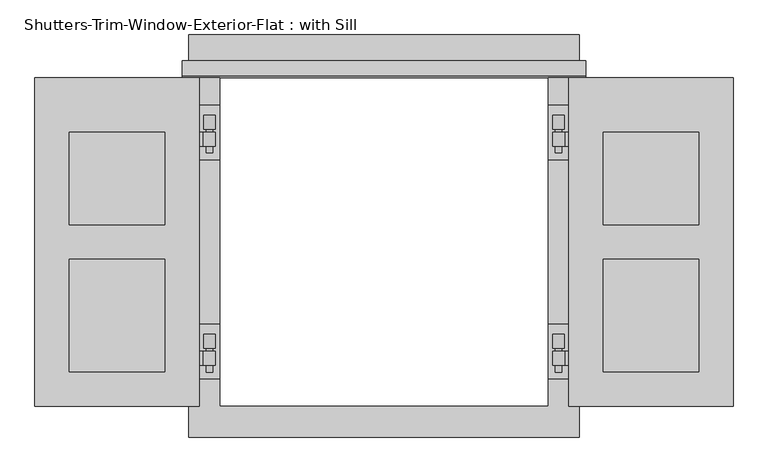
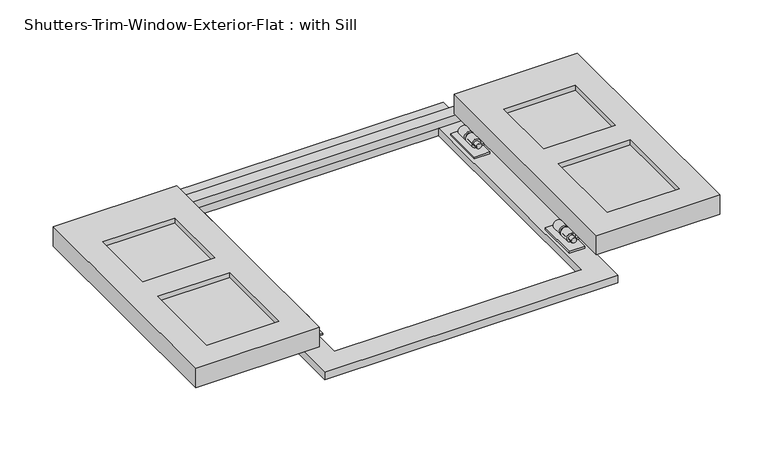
"""IFC4 building model written with IfcOpenShell, lengths in millimetres: proxy geometry, Shutters-Trim-Window-Exterior-Flat : with Sill."""

from ifc_helpers import new_model, si_unit, frame, origin, origin_with_axes, place, context, project, spatial, polyline, circle_curve, outline, extrude, source, transform, mapped, element, save
from ifc_brep_helpers import plane_surface, cylinder_surface, revolved_surface, advanced_brep


def shutters_trim_window_exterior_flat_with_sill_b35a88a1(model_context):
    return source(origin(), model_context, "Body", "SolidModel", [
        extrude(outline(polyline([(-647.7, 0.0), (-647.7, 609.6), (-342.9, 609.6), (-342.9, 0.0), (-647.7, 0.0)]), holes=[polyline([(-584.2, 63.5), (-406.4, 63.5), (-406.4, 273.05), (-584.2, 273.05), (-584.2, 63.5)]), polyline([(-406.4, 336.55), (-406.4, 508.0), (-584.2, 508.0), (-584.2, 336.55), (-406.4, 336.55)])]), frame((0.0, 0.0, 44.45), z_axis=(0.0, 0.0, 1.0), x_axis=(1.0, 0.0, 0.0)), (0.0, 0.0, 1.0), 50.8),
        extrude(outline(polyline([(-584.2, 63.5), (-584.2, 273.05), (-406.4, 273.05), (-406.4, 63.5), (-584.2, 63.5)])), frame((0.0, 0.0, 57.15), z_axis=(0.0, 0.0, 1.0), x_axis=(1.0, 0.0, 0.0)), (0.0, 0.0, 1.0), 25.4),
        extrude(outline(polyline([(-406.4, 336.55), (-584.2, 336.55), (-584.2, 508.0), (-406.4, 508.0), (-406.4, 336.55)])), frame((0.0, 0.0, 57.15), z_axis=(0.0, 0.0, 1.0), x_axis=(1.0, 0.0, 0.0)), (0.0, 0.0, 1.0), 25.4),
        extrude(outline(polyline([(647.7, 0.0), (342.9, 0.0), (342.9, 609.6), (647.7, 609.6), (647.7, 0.0)]), holes=[polyline([(584.2, 63.5), (584.2, 273.05), (406.4, 273.05), (406.4, 63.5), (584.2, 63.5)]), polyline([(406.4, 336.55), (584.2, 336.55), (584.2, 508.0), (406.4, 508.0), (406.4, 336.55)])]), frame((0.0, 0.0, 44.45), z_axis=(0.0, 0.0, 1.0), x_axis=(1.0, 0.0, 0.0)), (0.0, 0.0, 1.0), 50.8),
        extrude(outline(polyline([(584.2, 63.5), (406.4, 63.5), (406.4, 273.05), (584.2, 273.05), (584.2, 63.5)])), frame((0.0, 0.0, 57.15), z_axis=(0.0, 0.0, 1.0), x_axis=(1.0, 0.0, 0.0)), (0.0, 0.0, 1.0), 25.4),
        extrude(outline(polyline([(406.4, 336.55), (406.4, 508.0), (584.2, 508.0), (584.2, 336.55), (406.4, 336.55)])), frame((0.0, 0.0, 57.15), z_axis=(0.0, 0.0, 1.0), x_axis=(1.0, 0.0, 0.0)), (0.0, 0.0, 1.0), 25.4),
        extrude(outline(polyline([(-342.9, 457.2), (-342.9, 558.8), (-304.8, 558.8), (-304.8, 457.2), (-342.9, 457.2)])), frame((0.0, 0.0, 31.75), z_axis=(0.0, 0.0, 1.0), x_axis=(1.0, 0.0, 0.0)), (0.0, 0.0, 1.0), 4.7625),
        advanced_brep(
        [(-388.9375, 469.9, 44.45), (-388.9375, 469.9, 39.6875), (-363.474, 469.9, 39.6875), (-363.474, 469.9, 44.45), (-388.9375, 520.7, 39.6875), (-388.9375, 520.7, 44.45), (-363.474, 520.7, 44.45), (-363.474, 520.7, 39.6875), (-363.474, 508.0, 39.6875), (-323.85, 508.0, 39.6875), (-323.85, 482.6, 39.6875), (-363.474, 482.6, 39.6875), (-363.474, 482.6, 44.45), (-323.85, 482.6, 44.45), (-323.85, 508.0, 44.45), (-363.474, 508.0, 44.45), (-330.2, 508.0, 50.8), (-330.2, 482.6, 50.8), (-330.2, 508.0, 46.0375), (-330.2, 482.6, 46.0375), (-334.9625, 508.0, 46.0375), (-334.9625, 482.6, 46.0375), (-334.9625, 508.0, 50.8), (-334.9625, 482.6, 50.8)],
        [
            (0, 1),
            (1, 2),
            (2, 3),
            (3, 0),
            (4, 5),
            (5, 6),
            (6, 7),
            (7, 4),
            (1, 4),
            (7, 8),
            (8, 9),
            (9, 10),
            (10, 11),
            (11, 2),
            (0, 5),
            (3, 12),
            (12, 13),
            (13, 14),
            (14, 15),
            (15, 6),
            (16, 14, circle_curve(frame((-323.85, 508.0, 50.8), z_axis=(0.0, 1.0, 0.0), x_axis=(1.0, 0.0, 0.0)), 6.35)),
            (13, 17, circle_curve(frame((-323.85, 482.6, 50.8), z_axis=(0.0, -1.0, 0.0), x_axis=(1.0, 0.0, 0.0)), 6.35)),
            (17, 16),
            (18, 16),
            (17, 19),
            (19, 18),
            (20, 18),
            (19, 21),
            (21, 20),
            (22, 20),
            (21, 23),
            (23, 22),
            (9, 22, circle_curve(frame((-323.85, 508.0, 50.8), z_axis=(0.0, -1.0, 0.0), x_axis=(1.0, 0.0, 0.0)), 11.1125)),
            (23, 10, circle_curve(frame((-323.85, 482.6, 50.8), z_axis=(0.0, 1.0, 0.0), x_axis=(1.0, 0.0, 0.0)), 11.1125)),
            (8, 15),
            (12, 11),
        ],
        [
            plane_surface(frame((-323.85, 469.9, 50.8), z_axis=(0.0, -1.0, 0.0), x_axis=(0.0, 0.0, 1.0))),
            plane_surface(frame((-323.85, 520.7, 50.8), z_axis=(0.0, 1.0, 0.0), x_axis=(0.0, 0.0, 1.0))),
            plane_surface(frame((-388.9375, 469.9, 39.6875), z_axis=(0.0, 0.0, -1.0), x_axis=(0.0, 1.0, 0.0))),
            plane_surface(frame((-388.9375, 469.9, 44.45), z_axis=(-1.0, 0.0, 0.0), x_axis=(0.0, 1.0, 0.0))),
            plane_surface(frame((-323.85, 469.9, 44.45), z_axis=(0.0, 0.0, 1.0), x_axis=(0.0, 1.0, 0.0))),
            revolved_surface(polyline([(-317.5, 508.0, 50.8), (-317.5, 482.6, 50.8)]), (-323.85, 469.9, 50.8), (0.0, 1.0, 0.0)),
            plane_surface(frame((-330.2, 469.9, 46.0375), z_axis=(1.0, 0.0, 0.0), x_axis=(0.0, 1.0, 0.0))),
            plane_surface(frame((-334.9625, 469.9, 46.0375), z_axis=(0.0, 0.0, -1.0), x_axis=(0.0, 1.0, 0.0))),
            plane_surface(frame((-334.9625, 469.9, 50.8), z_axis=(-1.0, 0.0, 0.0), x_axis=(0.0, 1.0, 0.0))),
            cylinder_surface(frame((-323.85, 469.9, 50.8), z_axis=(0.0, -1.0, 0.0), x_axis=(1.0, 0.0, 0.0)), 11.1125),
            plane_surface(frame((-323.85, 508.0, 50.8), z_axis=(0.0, 1.0, 0.0), x_axis=(0.0, 0.0, 1.0))),
            plane_surface(frame((-363.474, 508.0, 44.45), z_axis=(1.0, 0.0, 0.0), x_axis=(0.0, 1.0, 0.0))),
            plane_surface(frame((-323.85, 482.6, 50.8), z_axis=(0.0, -1.0, 0.0), x_axis=(0.0, 0.0, 1.0))),
            plane_surface(frame((-363.474, 469.9, 44.45), z_axis=(1.0, 0.0, 0.0), x_axis=(0.0, 1.0, 0.0))),
        ],
        [
            (0, [[1, 2, 3, 4]]),
            (1, [[5, 6, 7, 8]]),
            (2, [[9, -8, 10, 11, 12, 13, 14, -2]]),
            (3, [[-1, 15, -5, -9]]),
            (4, [[-15, -4, 16, 17, 18, 19, 20, -6]]),
            (5, [[21, -18, 22, 23]]),
            (6, [[24, -23, 25, 26]]),
            (7, [[27, -26, 28, 29]]),
            (8, [[30, -29, 31, 32]]),
            (9, [[33, -32, 34, -12]]),
            (10, [[35, -19, -21, -24, -27, -30, -33, -11]]),
            (11, [[-35, -10, -7, -20]]),
            (12, [[36, -13, -34, -31, -28, -25, -22, -17]]),
            (13, [[-36, -16, -3, -14]]),
        ],
    ),
        advanced_brep(
        [(-326.23125, 514.35, 36.5125), (-321.46875, 514.35, 36.5125), (-321.46875, 514.35, 39.945632), (-326.23125, 514.35, 39.945632), (-317.5, 514.35, 50.8), (-330.2, 514.35, 50.8), (-326.23125, 539.75, 36.5125), (-326.23125, 539.75, 39.945632), (-321.46875, 539.75, 39.945632), (-321.46875, 539.75, 36.5125), (-330.2, 469.9, 50.8), (-317.5, 469.9, 50.8)],
        [
            (0, 1),
            (1, 2),
            (2, 3, circle_curve(frame((-323.85, 514.35, 50.8), z_axis=(0.0, -1.0, 0.0), x_axis=(1.0, 0.0, 0.0)), 11.1125)),
            (3, 0),
            (4, 5, circle_curve(frame((-323.85, 514.35, 50.8), z_axis=(0.0, 1.0, 0.0), x_axis=(1.0, 0.0, 0.0)), 6.35)),
            (5, 4, circle_curve(frame((-323.85, 514.35, 50.8), z_axis=(0.0, 1.0, 0.0), x_axis=(1.0, 0.0, 0.0)), 6.35)),
            (6, 7),
            (7, 8, circle_curve(frame((-323.85, 539.75, 50.8), z_axis=(0.0, 1.0, 0.0), x_axis=(1.0, 0.0, 0.0)), 11.1125)),
            (8, 9),
            (9, 6),
            (3, 7),
            (6, 0),
            (9, 1),
            (8, 2),
            (10, 11, circle_curve(frame((-323.85, 469.9, 50.8), z_axis=(0.0, -1.0, 0.0), x_axis=(1.0, 0.0, 0.0)), 6.35)),
            (11, 10, circle_curve(frame((-323.85, 469.9, 50.8), z_axis=(0.0, -1.0, 0.0), x_axis=(1.0, 0.0, 0.0)), 6.35)),
            (10, 5),
            (4, 11),
        ],
        [
            plane_surface(frame((-321.46875, 514.35, 36.5125), z_axis=(0.0, -1.0, 0.0), x_axis=(1.0, 0.0, 6.2395484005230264e-12))),
            plane_surface(frame((-321.46875, 539.75, 36.5125), z_axis=(0.0, 1.0, 0.0), x_axis=(-1.0, 0.0, -6.2395484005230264e-12))),
            plane_surface(frame((-326.23125, 514.35, 39.945632), z_axis=(-1.0, 0.0, 0.0), x_axis=(0.0, 1.0, 0.0))),
            plane_surface(frame((-326.23125, 514.35, 36.5125), z_axis=(6.2395484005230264e-12, 0.0, -1.0), x_axis=(0.0, 1.0, 0.0))),
            plane_surface(frame((-321.46875, 514.35, 36.5125), z_axis=(1.0, 0.0, 0.0), x_axis=(0.0, 1.0, 0.0))),
            cylinder_surface(frame((-323.85, 539.75, 50.8), z_axis=(0.0, -1.0, 0.0), x_axis=(1.0, 0.0, 0.0)), 11.1125),
            plane_surface(frame((-317.5, 469.9, 50.8), z_axis=(0.0, -1.0, 0.0), x_axis=(0.0, 0.0, 1.0))),
            cylinder_surface(frame((-323.85, 539.75, 50.8), z_axis=(0.0, -1.0, 0.0), x_axis=(1.0, 0.0, 0.0)), 6.35),
        ],
        [
            (0, [[1, 2, 3, 4], [5, 6]]),
            (1, [[7, 8, 9, 10]]),
            (2, [[-4, 11, -7, 12]]),
            (3, [[-1, -12, -10, 13]]),
            (4, [[-2, -13, -9, 14]]),
            (5, [[-3, -14, -8, -11]]),
            (6, [[15, 16]]),
            (7, [[-15, 17, -5, 18]]),
            (7, [[-16, -18, -6, -17]]),
        ],
    ),
        extrude(outline(polyline([(342.9, 457.2), (304.8, 457.2), (304.8, 558.8), (342.9, 558.8), (342.9, 457.2)])), frame((0.0, 0.0, 31.75), z_axis=(0.0, 0.0, 1.0), x_axis=(1.0, 0.0, 0.0)), (0.0, 0.0, 1.0), 4.7625),
        advanced_brep(
        [(388.9375, 469.9, 44.45), (363.474, 469.9, 44.45), (363.474, 469.9, 39.6875), (388.9375, 469.9, 39.6875), (388.9375, 520.7, 39.6875), (363.474, 520.7, 39.6875), (363.474, 520.7, 44.45), (388.9375, 520.7, 44.45), (363.474, 482.6, 39.6875), (323.85, 482.6, 39.6875), (323.85, 508.0, 39.6875), (363.474, 508.0, 39.6875), (363.474, 508.0, 44.45), (323.85, 508.0, 44.45), (323.85, 482.6, 44.45), (363.474, 482.6, 44.45), (330.2, 508.0, 50.8), (330.2, 482.6, 50.8), (330.2, 508.0, 46.0375), (330.2, 482.6, 46.0375), (334.9625, 508.0, 46.0375), (334.9625, 482.6, 46.0375), (334.9625, 508.0, 50.8), (334.9625, 482.6, 50.8)],
        [
            (0, 1),
            (1, 2),
            (2, 3),
            (3, 0),
            (4, 5),
            (5, 6),
            (6, 7),
            (7, 4),
            (2, 8),
            (8, 9),
            (9, 10),
            (10, 11),
            (11, 5),
            (4, 3),
            (7, 0),
            (6, 12),
            (12, 13),
            (13, 14),
            (14, 15),
            (15, 1),
            (16, 17),
            (17, 14, circle_curve(frame((323.85, 482.6, 50.8), z_axis=(0.0, -1.0, 0.0), x_axis=(-1.0, 0.0, 0.0)), 6.35)),
            (13, 16, circle_curve(frame((323.85, 508.0, 50.8), z_axis=(0.0, 1.0, 0.0), x_axis=(-1.0, 0.0, 0.0)), 6.35)),
            (18, 19),
            (19, 17),
            (16, 18),
            (20, 21),
            (21, 19),
            (18, 20),
            (22, 23),
            (23, 21),
            (20, 22),
            (9, 23, circle_curve(frame((323.85, 482.6, 50.8), z_axis=(0.0, 1.0, 0.0), x_axis=(-1.0, 0.0, 0.0)), 11.1125)),
            (22, 10, circle_curve(frame((323.85, 508.0, 50.8), z_axis=(0.0, -1.0, 0.0), x_axis=(-1.0, 0.0, 0.0)), 11.1125)),
            (12, 11),
            (8, 15),
        ],
        [
            plane_surface(frame((323.85, 469.9, 50.8), z_axis=(0.0, -1.0, 0.0), x_axis=(0.0, 0.0, 1.0))),
            plane_surface(frame((323.85, 520.7, 50.8), z_axis=(0.0, 1.0, 0.0), x_axis=(0.0, 0.0, 1.0))),
            plane_surface(frame((388.9375, 469.9, 39.6875), z_axis=(0.0, 0.0, -1.0), x_axis=(0.0, 1.0, 0.0))),
            plane_surface(frame((388.9375, 469.9, 44.45), z_axis=(1.0, 0.0, 0.0), x_axis=(0.0, 1.0, 0.0))),
            plane_surface(frame((323.85, 469.9, 44.45), z_axis=(0.0, 0.0, 1.0), x_axis=(0.0, 1.0, 0.0))),
            revolved_surface(polyline([(317.5, 508.0, 50.8), (317.5, 482.6, 50.8)]), (323.85, 469.9, 50.8), (0.0, 1.0, 0.0)),
            plane_surface(frame((330.2, 469.9, 46.0375), z_axis=(-1.0, 0.0, 0.0), x_axis=(0.0, 1.0, 0.0))),
            plane_surface(frame((334.9625, 469.9, 46.0375), z_axis=(0.0, 0.0, -1.0), x_axis=(0.0, 1.0, 0.0))),
            plane_surface(frame((334.9625, 469.9, 50.8), z_axis=(1.0, 0.0, 0.0), x_axis=(0.0, 1.0, 0.0))),
            cylinder_surface(frame((323.85, 469.9, 50.8), z_axis=(0.0, -1.0, 0.0), x_axis=(-1.0, 0.0, 0.0)), 11.1125),
            plane_surface(frame((323.85, 508.0, 50.8), z_axis=(0.0, 1.0, 0.0), x_axis=(0.0, 0.0, 1.0))),
            plane_surface(frame((363.474, 508.0, 44.45), z_axis=(-1.0, 0.0, 0.0), x_axis=(0.0, 1.0, 0.0))),
            plane_surface(frame((323.85, 482.6, 50.8), z_axis=(0.0, -1.0, 0.0), x_axis=(0.0, 0.0, 1.0))),
            plane_surface(frame((363.474, 469.9, 44.45), z_axis=(-1.0, 0.0, 0.0), x_axis=(0.0, 1.0, 0.0))),
        ],
        [
            (0, [[1, 2, 3, 4]]),
            (1, [[5, 6, 7, 8]]),
            (2, [[-3, 9, 10, 11, 12, 13, -5, 14]]),
            (3, [[-14, -8, 15, -4]]),
            (4, [[-7, 16, 17, 18, 19, 20, -1, -15]]),
            (5, [[21, 22, -18, 23]]),
            (6, [[24, 25, -21, 26]]),
            (7, [[27, 28, -24, 29]]),
            (8, [[30, 31, -27, 32]]),
            (9, [[-11, 33, -30, 34]]),
            (10, [[-12, -34, -32, -29, -26, -23, -17, 35]]),
            (11, [[-16, -6, -13, -35]]),
            (12, [[-19, -22, -25, -28, -31, -33, -10, 36]]),
            (13, [[-9, -2, -20, -36]]),
        ],
    ),
        advanced_brep(
        [(326.23125, 514.35, 36.5125), (326.23125, 514.35, 39.945632), (321.46875, 514.35, 39.945632), (321.46875, 514.35, 36.5125), (317.5, 514.35, 50.8), (330.2, 514.35, 50.8), (326.23125, 539.75, 36.5125), (321.46875, 539.75, 36.5125), (321.46875, 539.75, 39.945632), (326.23125, 539.75, 39.945632), (330.2, 469.9, 50.8), (317.5, 469.9, 50.8)],
        [
            (0, 1),
            (1, 2, circle_curve(frame((323.85, 514.35, 50.8), z_axis=(0.0, -1.0, 0.0), x_axis=(-1.0, 0.0, 0.0)), 11.1125)),
            (2, 3),
            (3, 0),
            (4, 5, circle_curve(frame((323.85, 514.35, 50.8), z_axis=(0.0, 1.0, 0.0), x_axis=(-1.0, 0.0, 0.0)), 6.35)),
            (5, 4, circle_curve(frame((323.85, 514.35, 50.8), z_axis=(0.0, 1.0, 0.0), x_axis=(-1.0, 0.0, 0.0)), 6.35)),
            (6, 7),
            (7, 8),
            (8, 9, circle_curve(frame((323.85, 539.75, 50.8), z_axis=(0.0, 1.0, 0.0), x_axis=(-1.0, 0.0, 0.0)), 11.1125)),
            (9, 6),
            (0, 6),
            (9, 1),
            (3, 7),
            (2, 8),
            (10, 11, circle_curve(frame((323.85, 469.9, 50.8), z_axis=(0.0, -1.0, 0.0), x_axis=(-1.0, 0.0, 0.0)), 6.35)),
            (11, 10, circle_curve(frame((323.85, 469.9, 50.8), z_axis=(0.0, -1.0, 0.0), x_axis=(-1.0, 0.0, 0.0)), 6.35)),
            (11, 4),
            (5, 10),
        ],
        [
            plane_surface(frame((321.46875, 514.35, 36.5125), z_axis=(0.0, -1.0, 0.0), x_axis=(-1.0, 0.0, 6.24601973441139e-12))),
            plane_surface(frame((321.46875, 539.75, 36.5125), z_axis=(0.0, 1.0, 0.0), x_axis=(1.0, 0.0, -6.24601973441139e-12))),
            plane_surface(frame((326.23125, 514.35, 39.945632), z_axis=(1.0, 0.0, 0.0), x_axis=(0.0, 1.0, 0.0))),
            plane_surface(frame((326.23125, 514.35, 36.5125), z_axis=(-6.24601973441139e-12, 0.0, -1.0), x_axis=(0.0, 1.0, 0.0))),
            plane_surface(frame((321.46875, 514.35, 36.5125), z_axis=(-1.0, 0.0, 0.0), x_axis=(0.0, 1.0, 0.0))),
            cylinder_surface(frame((323.85, 539.75, 50.8), z_axis=(0.0, -1.0, 0.0), x_axis=(-1.0, 0.0, 0.0)), 11.1125),
            plane_surface(frame((317.5, 469.9, 50.8), z_axis=(0.0, -1.0, 0.0), x_axis=(0.0, 0.0, 1.0))),
            cylinder_surface(frame((323.85, 539.75, 50.8), z_axis=(0.0, -1.0, 0.0), x_axis=(-1.0, 0.0, 0.0)), 6.35),
        ],
        [
            (0, [[1, 2, 3, 4], [5, 6]]),
            (1, [[7, 8, 9, 10]]),
            (2, [[11, -10, 12, -1]]),
            (3, [[13, -7, -11, -4]]),
            (4, [[14, -8, -13, -3]]),
            (5, [[-12, -9, -14, -2]]),
            (6, [[15, 16]]),
            (7, [[17, -6, 18, -16]]),
            (7, [[-18, -5, -17, -15]]),
        ],
    ),
        extrude(outline(polyline([(342.9, 50.8), (304.8, 50.8), (304.8, 152.4), (342.9, 152.4), (342.9, 50.8)])), frame((0.0, 0.0, 31.75), z_axis=(0.0, 0.0, 1.0), x_axis=(1.0, 0.0, 0.0)), (0.0, 0.0, 1.0), 4.7625),
        advanced_brep(
        [(388.9375, 63.5, 44.45), (363.474, 63.5, 44.45), (363.474, 63.5, 39.6875), (388.9375, 63.5, 39.6875), (388.9375, 114.3, 39.6875), (363.474, 114.3, 39.6875), (363.474, 114.3, 44.45), (388.9375, 114.3, 44.45), (363.474, 76.2, 39.6875), (323.85, 76.2, 39.6875), (323.85, 101.6, 39.6875), (363.474, 101.6, 39.6875), (363.474, 101.6, 44.45), (323.85, 101.6, 44.45), (323.85, 76.2, 44.45), (363.474, 76.2, 44.45), (330.2, 101.6, 50.8), (330.2, 76.2, 50.8), (330.2, 101.6, 46.0375), (330.2, 76.2, 46.0375), (334.9625, 101.6, 46.0375), (334.9625, 76.2, 46.0375), (334.9625, 101.6, 50.8), (334.9625, 76.2, 50.8)],
        [
            (0, 1),
            (1, 2),
            (2, 3),
            (3, 0),
            (4, 5),
            (5, 6),
            (6, 7),
            (7, 4),
            (2, 8),
            (8, 9),
            (9, 10),
            (10, 11),
            (11, 5),
            (4, 3),
            (7, 0),
            (6, 12),
            (12, 13),
            (13, 14),
            (14, 15),
            (15, 1),
            (16, 17),
            (17, 14, circle_curve(frame((323.85, 76.2, 50.8), z_axis=(0.0, -1.0, 0.0), x_axis=(-1.0, 0.0, 0.0)), 6.35)),
            (13, 16, circle_curve(frame((323.85, 101.6, 50.8), z_axis=(0.0, 1.0, 0.0), x_axis=(-1.0, 0.0, 0.0)), 6.35)),
            (18, 19),
            (19, 17),
            (16, 18),
            (20, 21),
            (21, 19),
            (18, 20),
            (22, 23),
            (23, 21),
            (20, 22),
            (9, 23, circle_curve(frame((323.85, 76.2, 50.8), z_axis=(0.0, 1.0, 0.0), x_axis=(-1.0, 0.0, 0.0)), 11.1125)),
            (22, 10, circle_curve(frame((323.85, 101.6, 50.8), z_axis=(0.0, -1.0, 0.0), x_axis=(-1.0, 0.0, 0.0)), 11.1125)),
            (12, 11),
            (8, 15),
        ],
        [
            plane_surface(frame((323.85, 63.5, 50.8), z_axis=(0.0, -1.0, 0.0), x_axis=(0.0, 0.0, 1.0))),
            plane_surface(frame((323.85, 114.3, 50.8), z_axis=(0.0, 1.0, 0.0), x_axis=(0.0, 0.0, 1.0))),
            plane_surface(frame((388.9375, 63.5, 39.6875), z_axis=(0.0, 0.0, -1.0), x_axis=(0.0, 1.0, 0.0))),
            plane_surface(frame((388.9375, 63.5, 44.45), z_axis=(1.0, 0.0, 0.0), x_axis=(0.0, 1.0, 0.0))),
            plane_surface(frame((323.85, 63.5, 44.45), z_axis=(0.0, 0.0, 1.0), x_axis=(0.0, 1.0, 0.0))),
            revolved_surface(polyline([(317.5, 101.6, 50.8), (317.5, 76.2, 50.8)]), (323.85, 63.5, 50.8), (0.0, 1.0, 0.0)),
            plane_surface(frame((330.2, 63.5, 46.0375), z_axis=(-1.0, 0.0, 0.0), x_axis=(0.0, 1.0, 0.0))),
            plane_surface(frame((334.9625, 63.5, 46.0375), z_axis=(0.0, 0.0, -1.0), x_axis=(0.0, 1.0, 0.0))),
            plane_surface(frame((334.9625, 63.5, 50.8), z_axis=(1.0, 0.0, 0.0), x_axis=(0.0, 1.0, 0.0))),
            cylinder_surface(frame((323.85, 63.5, 50.8), z_axis=(0.0, -1.0, 0.0), x_axis=(-1.0, 0.0, 0.0)), 11.1125),
            plane_surface(frame((323.85, 101.6, 50.8), z_axis=(0.0, 1.0, 0.0), x_axis=(0.0, 0.0, 1.0))),
            plane_surface(frame((363.474, 101.6, 44.45), z_axis=(-1.0, 0.0, 0.0), x_axis=(0.0, 1.0, 0.0))),
            plane_surface(frame((323.85, 76.2, 50.8), z_axis=(0.0, -1.0, 0.0), x_axis=(0.0, 0.0, 1.0))),
            plane_surface(frame((363.474, 63.5, 44.45), z_axis=(-1.0, 0.0, 0.0), x_axis=(0.0, 1.0, 0.0))),
        ],
        [
            (0, [[1, 2, 3, 4]]),
            (1, [[5, 6, 7, 8]]),
            (2, [[-3, 9, 10, 11, 12, 13, -5, 14]]),
            (3, [[-14, -8, 15, -4]]),
            (4, [[-7, 16, 17, 18, 19, 20, -1, -15]]),
            (5, [[21, 22, -18, 23]]),
            (6, [[24, 25, -21, 26]]),
            (7, [[27, 28, -24, 29]]),
            (8, [[30, 31, -27, 32]]),
            (9, [[-11, 33, -30, 34]]),
            (10, [[-12, -34, -32, -29, -26, -23, -17, 35]]),
            (11, [[-16, -6, -13, -35]]),
            (12, [[-19, -22, -25, -28, -31, -33, -10, 36]]),
            (13, [[-9, -2, -20, -36]]),
        ],
    ),
        advanced_brep(
        [(326.23125, 107.95, 36.5125), (326.23125, 107.95, 39.945632), (321.46875, 107.95, 39.945632), (321.46875, 107.95, 36.5125), (317.5, 107.95, 50.8), (330.2, 107.95, 50.8), (326.23125, 133.35, 36.5125), (321.46875, 133.35, 36.5125), (321.46875, 133.35, 39.945632), (326.23125, 133.35, 39.945632), (330.2, 63.5, 50.8), (317.5, 63.5, 50.8)],
        [
            (0, 1),
            (1, 2, circle_curve(frame((323.85, 107.95, 50.8), z_axis=(0.0, -1.0, 0.0), x_axis=(-1.0, 0.0, 0.0)), 11.1125)),
            (2, 3),
            (3, 0),
            (4, 5, circle_curve(frame((323.85, 107.95, 50.8), z_axis=(0.0, 1.0, 0.0), x_axis=(-1.0, 0.0, 0.0)), 6.35)),
            (5, 4, circle_curve(frame((323.85, 107.95, 50.8), z_axis=(0.0, 1.0, 0.0), x_axis=(-1.0, 0.0, 0.0)), 6.35)),
            (6, 7),
            (7, 8),
            (8, 9, circle_curve(frame((323.85, 133.35, 50.8), z_axis=(0.0, 1.0, 0.0), x_axis=(-1.0, 0.0, 0.0)), 11.1125)),
            (9, 6),
            (0, 6),
            (9, 1),
            (3, 7),
            (2, 8),
            (10, 11, circle_curve(frame((323.85, 63.5, 50.8), z_axis=(0.0, -1.0, 0.0), x_axis=(-1.0, 0.0, 0.0)), 6.35)),
            (11, 10, circle_curve(frame((323.85, 63.5, 50.8), z_axis=(0.0, -1.0, 0.0), x_axis=(-1.0, 0.0, 0.0)), 6.35)),
            (11, 4),
            (5, 10),
        ],
        [
            plane_surface(frame((321.46875, 107.95, 36.5125), z_axis=(0.0, -1.0, 0.0), x_axis=(-1.0, 0.0, 6.24601973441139e-12))),
            plane_surface(frame((321.46875, 133.35, 36.5125), z_axis=(0.0, 1.0, 0.0), x_axis=(1.0, 0.0, -6.24601973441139e-12))),
            plane_surface(frame((326.23125, 107.95, 39.945632), z_axis=(1.0, 0.0, 0.0), x_axis=(0.0, 1.0, 0.0))),
            plane_surface(frame((326.23125, 107.95, 36.5125), z_axis=(-6.24601973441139e-12, 0.0, -1.0), x_axis=(0.0, 1.0, 0.0))),
            plane_surface(frame((321.46875, 107.95, 36.5125), z_axis=(-1.0, 0.0, 0.0), x_axis=(0.0, 1.0, 0.0))),
            cylinder_surface(frame((323.85, 133.35, 50.8), z_axis=(0.0, -1.0, 0.0), x_axis=(-1.0, 0.0, 0.0)), 11.1125),
            plane_surface(frame((317.5, 63.5, 50.8), z_axis=(0.0, -1.0, 0.0), x_axis=(0.0, 0.0, 1.0))),
            cylinder_surface(frame((323.85, 133.35, 50.8), z_axis=(0.0, -1.0, 0.0), x_axis=(-1.0, 0.0, 0.0)), 6.35),
        ],
        [
            (0, [[1, 2, 3, 4], [5, 6]]),
            (1, [[7, 8, 9, 10]]),
            (2, [[11, -10, 12, -1]]),
            (3, [[13, -7, -11, -4]]),
            (4, [[14, -8, -13, -3]]),
            (5, [[-12, -9, -14, -2]]),
            (6, [[15, 16]]),
            (7, [[17, -6, 18, -16]]),
            (7, [[-18, -5, -17, -15]]),
        ],
    ),
        extrude(outline(polyline([(-342.9, 50.8), (-342.9, 152.4), (-304.8, 152.4), (-304.8, 50.8), (-342.9, 50.8)])), frame((0.0, 0.0, 31.75), z_axis=(0.0, 0.0, 1.0), x_axis=(1.0, 0.0, 0.0)), (0.0, 0.0, 1.0), 4.7625),
        advanced_brep(
        [(-388.9375, 63.5, 44.45), (-388.9375, 63.5, 39.6875), (-363.474, 63.5, 39.6875), (-363.474, 63.5, 44.45), (-388.9375, 114.3, 39.6875), (-388.9375, 114.3, 44.45), (-363.474, 114.3, 44.45), (-363.474, 114.3, 39.6875), (-363.474, 101.6, 39.6875), (-323.85, 101.6, 39.6875), (-323.85, 76.2, 39.6875), (-363.474, 76.2, 39.6875), (-363.474, 76.2, 44.45), (-323.85, 76.2, 44.45), (-323.85, 101.6, 44.45), (-363.474, 101.6, 44.45), (-330.2, 101.6, 50.8), (-330.2, 76.2, 50.8), (-330.2, 101.6, 46.0375), (-330.2, 76.2, 46.0375), (-334.9625, 101.6, 46.0375), (-334.9625, 76.2, 46.0375), (-334.9625, 101.6, 50.8), (-334.9625, 76.2, 50.8)],
        [
            (0, 1),
            (1, 2),
            (2, 3),
            (3, 0),
            (4, 5),
            (5, 6),
            (6, 7),
            (7, 4),
            (1, 4),
            (7, 8),
            (8, 9),
            (9, 10),
            (10, 11),
            (11, 2),
            (0, 5),
            (3, 12),
            (12, 13),
            (13, 14),
            (14, 15),
            (15, 6),
            (16, 14, circle_curve(frame((-323.85, 101.6, 50.8), z_axis=(0.0, 1.0, 0.0), x_axis=(1.0, 0.0, 0.0)), 6.35)),
            (13, 17, circle_curve(frame((-323.85, 76.2, 50.8), z_axis=(0.0, -1.0, 0.0), x_axis=(1.0, 0.0, 0.0)), 6.35)),
            (17, 16),
            (18, 16),
            (17, 19),
            (19, 18),
            (20, 18),
            (19, 21),
            (21, 20),
            (22, 20),
            (21, 23),
            (23, 22),
            (9, 22, circle_curve(frame((-323.85, 101.6, 50.8), z_axis=(0.0, -1.0, 0.0), x_axis=(1.0, 0.0, 0.0)), 11.1125)),
            (23, 10, circle_curve(frame((-323.85, 76.2, 50.8), z_axis=(0.0, 1.0, 0.0), x_axis=(1.0, 0.0, 0.0)), 11.1125)),
            (8, 15),
            (12, 11),
        ],
        [
            plane_surface(frame((-323.85, 63.5, 50.8), z_axis=(0.0, -1.0, 0.0), x_axis=(0.0, 0.0, 1.0))),
            plane_surface(frame((-323.85, 114.3, 50.8), z_axis=(0.0, 1.0, 0.0), x_axis=(0.0, 0.0, 1.0))),
            plane_surface(frame((-388.9375, 63.5, 39.6875), z_axis=(0.0, 0.0, -1.0), x_axis=(0.0, 1.0, 0.0))),
            plane_surface(frame((-388.9375, 63.5, 44.45), z_axis=(-1.0, 0.0, 0.0), x_axis=(0.0, 1.0, 0.0))),
            plane_surface(frame((-323.85, 63.5, 44.45), z_axis=(0.0, 0.0, 1.0), x_axis=(0.0, 1.0, 0.0))),
            revolved_surface(polyline([(-317.5, 101.6, 50.8), (-317.5, 76.2, 50.8)]), (-323.85, 63.5, 50.8), (0.0, 1.0, 0.0)),
            plane_surface(frame((-330.2, 63.5, 46.0375), z_axis=(1.0, 0.0, 0.0), x_axis=(0.0, 1.0, 0.0))),
            plane_surface(frame((-334.9625, 63.5, 46.0375), z_axis=(0.0, 0.0, -1.0), x_axis=(0.0, 1.0, 0.0))),
            plane_surface(frame((-334.9625, 63.5, 50.8), z_axis=(-1.0, 0.0, 0.0), x_axis=(0.0, 1.0, 0.0))),
            cylinder_surface(frame((-323.85, 63.5, 50.8), z_axis=(0.0, -1.0, 0.0), x_axis=(1.0, 0.0, 0.0)), 11.1125),
            plane_surface(frame((-323.85, 101.6, 50.8), z_axis=(0.0, 1.0, 0.0), x_axis=(0.0, 0.0, 1.0))),
            plane_surface(frame((-363.474, 101.6, 44.45), z_axis=(1.0, 0.0, 0.0), x_axis=(0.0, 1.0, 0.0))),
            plane_surface(frame((-323.85, 76.2, 50.8), z_axis=(0.0, -1.0, 0.0), x_axis=(0.0, 0.0, 1.0))),
            plane_surface(frame((-363.474, 63.5, 44.45), z_axis=(1.0, 0.0, 0.0), x_axis=(0.0, 1.0, 0.0))),
        ],
        [
            (0, [[1, 2, 3, 4]]),
            (1, [[5, 6, 7, 8]]),
            (2, [[9, -8, 10, 11, 12, 13, 14, -2]]),
            (3, [[-1, 15, -5, -9]]),
            (4, [[-15, -4, 16, 17, 18, 19, 20, -6]]),
            (5, [[21, -18, 22, 23]]),
            (6, [[24, -23, 25, 26]]),
            (7, [[27, -26, 28, 29]]),
            (8, [[30, -29, 31, 32]]),
            (9, [[33, -32, 34, -12]]),
            (10, [[35, -19, -21, -24, -27, -30, -33, -11]]),
            (11, [[-35, -10, -7, -20]]),
            (12, [[36, -13, -34, -31, -28, -25, -22, -17]]),
            (13, [[-36, -16, -3, -14]]),
        ],
    ),
        advanced_brep(
        [(-326.23125, 107.95, 36.5125), (-321.46875, 107.95, 36.5125), (-321.46875, 107.95, 39.945632), (-326.23125, 107.95, 39.945632), (-317.5, 107.95, 50.8), (-330.2, 107.95, 50.8), (-326.23125, 133.35, 36.5125), (-326.23125, 133.35, 39.945632), (-321.46875, 133.35, 39.945632), (-321.46875, 133.35, 36.5125), (-330.2, 63.5, 50.8), (-317.5, 63.5, 50.8)],
        [
            (0, 1),
            (1, 2),
            (2, 3, circle_curve(frame((-323.85, 107.95, 50.8), z_axis=(0.0, -1.0, 0.0), x_axis=(1.0, 0.0, 0.0)), 11.1125)),
            (3, 0),
            (4, 5, circle_curve(frame((-323.85, 107.95, 50.8), z_axis=(0.0, 1.0, 0.0), x_axis=(1.0, 0.0, 0.0)), 6.35)),
            (5, 4, circle_curve(frame((-323.85, 107.95, 50.8), z_axis=(0.0, 1.0, 0.0), x_axis=(1.0, 0.0, 0.0)), 6.35)),
            (6, 7),
            (7, 8, circle_curve(frame((-323.85, 133.35, 50.8), z_axis=(0.0, 1.0, 0.0), x_axis=(1.0, 0.0, 0.0)), 11.1125)),
            (8, 9),
            (9, 6),
            (3, 7),
            (6, 0),
            (9, 1),
            (8, 2),
            (10, 11, circle_curve(frame((-323.85, 63.5, 50.8), z_axis=(0.0, -1.0, 0.0), x_axis=(1.0, 0.0, 0.0)), 6.35)),
            (11, 10, circle_curve(frame((-323.85, 63.5, 50.8), z_axis=(0.0, -1.0, 0.0), x_axis=(1.0, 0.0, 0.0)), 6.35)),
            (10, 5),
            (4, 11),
        ],
        [
            plane_surface(frame((-321.46875, 107.95, 36.5125), z_axis=(0.0, -1.0, 0.0), x_axis=(1.0, 0.0, 6.2395484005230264e-12))),
            plane_surface(frame((-321.46875, 133.35, 36.5125), z_axis=(0.0, 1.0, 0.0), x_axis=(-1.0, 0.0, -6.2395484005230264e-12))),
            plane_surface(frame((-326.23125, 107.95, 39.945632), z_axis=(-1.0, 0.0, 0.0), x_axis=(0.0, 1.0, 0.0))),
            plane_surface(frame((-326.23125, 107.95, 36.5125), z_axis=(6.2395484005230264e-12, 0.0, -1.0), x_axis=(0.0, 1.0, 0.0))),
            plane_surface(frame((-321.46875, 107.95, 36.5125), z_axis=(1.0, 0.0, 0.0), x_axis=(0.0, 1.0, 0.0))),
            cylinder_surface(frame((-323.85, 133.35, 50.8), z_axis=(0.0, -1.0, 0.0), x_axis=(1.0, 0.0, 0.0)), 11.1125),
            plane_surface(frame((-317.5, 63.5, 50.8), z_axis=(0.0, -1.0, 0.0), x_axis=(0.0, 0.0, 1.0))),
            cylinder_surface(frame((-323.85, 133.35, 50.8), z_axis=(0.0, -1.0, 0.0), x_axis=(1.0, 0.0, 0.0)), 6.35),
        ],
        [
            (0, [[1, 2, 3, 4], [5, 6]]),
            (1, [[7, 8, 9, 10]]),
            (2, [[-4, 11, -7, 12]]),
            (3, [[-1, -12, -10, 13]]),
            (4, [[-2, -13, -9, 14]]),
            (5, [[-3, -14, -8, -11]]),
            (6, [[15, 16]]),
            (7, [[-15, 17, -5, 18]]),
            (7, [[-16, -18, -6, -17]]),
        ],
    ),
        extrude(outline(polyline([(-361.95, -57.15), (-361.95, 609.6), (-304.8, 609.6), (-304.8, 0.0), (304.8, 0.0), (304.8, 609.6), (361.95, 609.6), (361.95, -57.15), (-361.95, -57.15)])), origin_with_axes(), (0.0, 0.0, 1.0), 19.05),
        extrude(outline(polyline([(641.35, 38.1), (641.35, 19.05), (631.7823709, 19.05), (631.7823709, 0.0), (609.6, 0.0), (609.6, 19.05), (612.0580645, 38.1), (641.35, 38.1)])), frame((-374.65, 0.0, 0.0), z_axis=(1.0, 0.0, 0.0), x_axis=(0.0, 1.0, 0.0)), (0.0, 0.0, 1.0), 749.3),
        extrude(outline(polyline([(361.95, 631.7823709), (-361.95, 631.7823709), (-361.95, 688.9323709), (361.95, 688.9323709), (361.95, 631.7823709)])), origin_with_axes(), (0.0, 0.0, 1.0), 19.05),
    ])


if __name__ == "__main__":
    model = new_model("IFC4")
    model_context = context("Model", 3, world=origin())
    ifc_project = project(units=[si_unit("LENGTHUNIT", "METRE", prefix="MILLI")], contexts=[model_context])
    site = spatial("IfcSite", under=ifc_project)
    building = spatial("IfcBuilding", under=site)
    placement = place(None, origin())
    shutters_trim_window_exterior_flat_with_sill_shape = shutters_trim_window_exterior_flat_with_sill_b35a88a1(model_context)
    element("IfcBuildingElementProxy", 1, Name="Shutters-Trim-Window-Exterior-Flat : with Sill", ObjectType="Shutters-Trim-Window-Exterior-Flat : with Sill", at=placement, inside=building, context=model_context, shape_type="MappedRepresentation", body=[
        mapped(shutters_trim_window_exterior_flat_with_sill_shape, transform((0.0, 0.0, 0.0), x_axis=(1.0, 0.0, 0.0), y_axis=(0.0, 1.0, 0.0), z_axis=(0.0, 0.0, 1.0))),
    ])
    save(model, "model.ifc")
